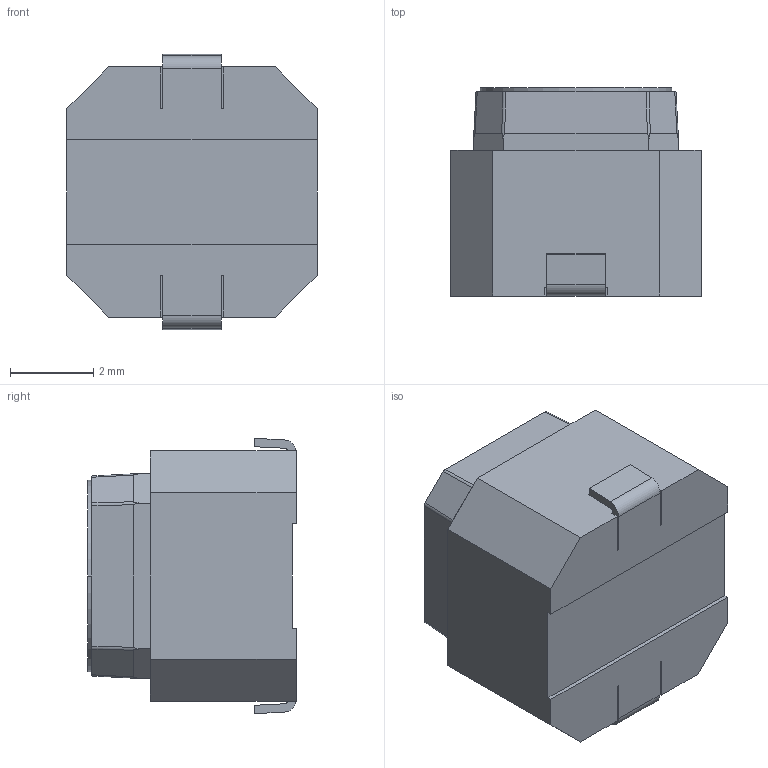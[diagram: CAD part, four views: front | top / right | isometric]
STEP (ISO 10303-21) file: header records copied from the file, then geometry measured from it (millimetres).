
FILE_DESCRIPTION((''),'2;1');
FILE_NAME('JSA6060-C0501-01-1-101_ASM','2026-05-21T16:50:46',('Admin'),(''),'CREO PARAMETRIC BY PTC INC, 2019224','CREO PARAMETRIC BY PTC INC, 2019224','');
FILE_SCHEMA(('AUTOMOTIVE_DESIGN { 1 0 10303 214 1 1 1 1 }'));
Length unit declared in the file: millimetre
Products named in the file (3): JSA6060-C0501-01-1-101_02; JSA6060-C0501-01-1-101_03; JSA6060-C0501-01-1-101_ASM
Assembly tree (2 placements, depth 2):
  JSA6060-C0501-01-1-101_ASM
    JSA6060-C0501-01-1-101_02
    JSA6060-C0501-01-1-101_03
Bounding box: 6 x 5 x 6.6 mm (x, y, z)
Volume: 142.9 mm3; surface area: 317.1 mm2
Topology: 2 solids, 2 shells, 86 faces, 237 edges, 158 vertices
Faces by surface type: plane 72, cylinder 14
Entity records: 3870 total; most frequent: CARTESIAN_POINT 631, ORIENTED_EDGE 472, DIRECTION 415, PRESENTATION_STYLE_ASSIGNMENT 256, STYLED_ITEM 242, CURVE_STYLE 240, EDGE_CURVE 236, VECTOR 201
